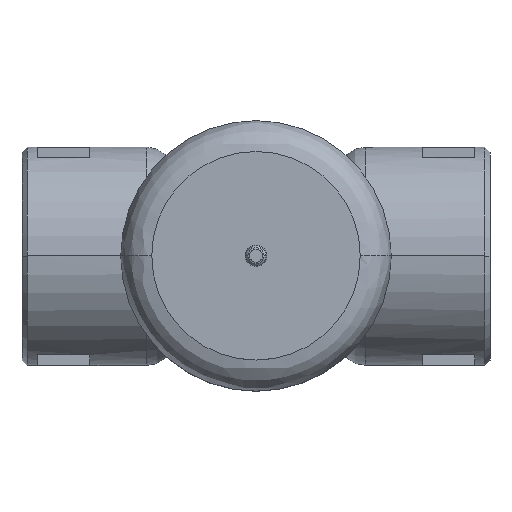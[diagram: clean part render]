
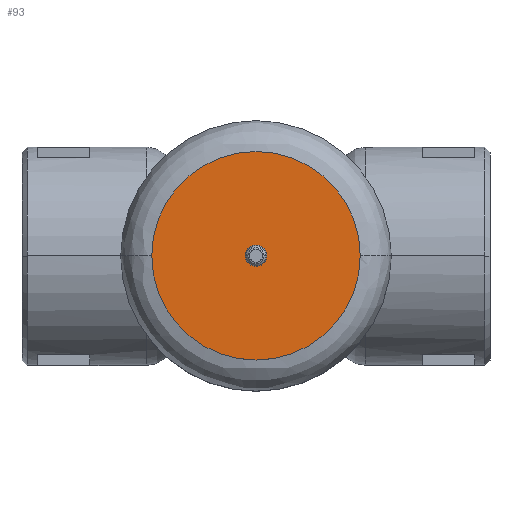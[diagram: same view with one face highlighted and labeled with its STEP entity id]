
A CAD part, top view. The second image highlights one B-rep face of the part: STEP entity #93.
In plain terms, the highlighted planar face has unit normal (0, 0, 1).
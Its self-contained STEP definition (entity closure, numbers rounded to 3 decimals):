
#93=ADVANCED_FACE('',(#696,#697),#695,.T.);
#695=PLANE('',#1827);
#696=FACE_OUTER_BOUND('',#1828,.T.);
#697=FACE_BOUND('',#1829,.T.);
#1824=CARTESIAN_POINT('',(-7.162,-41.669,59.051));
#1825=DIRECTION('',(0.,0.,1.));
#1826=DIRECTION('',(1.,0.,0.));
#1827=AXIS2_PLACEMENT_3D('',#1824,#1825,#1826);
#1828=EDGE_LOOP('',(#2740,#2741));
#1829=EDGE_LOOP('',(#2742,#2743));
#2740=ORIENTED_EDGE('',*,*,#3292,.F.);
#2741=ORIENTED_EDGE('',*,*,#3293,.F.);
#2742=ORIENTED_EDGE('',*,*,#3294,.T.);
#2743=ORIENTED_EDGE('',*,*,#3295,.T.);
#3292=EDGE_CURVE('',#4643,#4644,#4645,.T.);
#3293=EDGE_CURVE('',#4644,#4643,#4651,.T.);
#3294=EDGE_CURVE('',#4657,#4658,#4659,.T.);
#3295=EDGE_CURVE('',#4658,#4657,#4665,.T.);
#4643=VERTEX_POINT('',#6512);
#4644=VERTEX_POINT('',#6513);
#4645=CIRCLE('',#6517,20.048);
#4651=CIRCLE('',#6521,20.048);
#4657=VERTEX_POINT('',#6522);
#4658=VERTEX_POINT('',#6523);
#4659=CIRCLE('',#6527,2.048);
#4665=CIRCLE('',#6531,2.048);
#6512=CARTESIAN_POINT('',(38.949,0.,59.051));
#6513=CARTESIAN_POINT('',(-1.148,0.,59.051));
#6514=CARTESIAN_POINT('',(18.9,0.,59.051));
#6515=DIRECTION('',(0.,0.,-1.));
#6516=DIRECTION('',(-1.,0.,0.));
#6517=AXIS2_PLACEMENT_3D('',#6514,#6515,#6516);
#6518=CARTESIAN_POINT('',(18.9,0.,59.051));
#6519=DIRECTION('',(0.,0.,-1.));
#6520=DIRECTION('',(-1.,0.,0.));
#6521=AXIS2_PLACEMENT_3D('',#6518,#6519,#6520);
#6522=CARTESIAN_POINT('',(16.852,0.,59.051));
#6523=CARTESIAN_POINT('',(20.949,0.,59.051));
#6524=CARTESIAN_POINT('',(18.9,0.,59.051));
#6525=DIRECTION('',(0.,0.,-1.));
#6526=DIRECTION('',(-1.,0.,0.));
#6527=AXIS2_PLACEMENT_3D('',#6524,#6525,#6526);
#6528=CARTESIAN_POINT('',(18.9,0.,59.051));
#6529=DIRECTION('',(0.,0.,-1.));
#6530=DIRECTION('',(-1.,0.,0.));
#6531=AXIS2_PLACEMENT_3D('',#6528,#6529,#6530);
